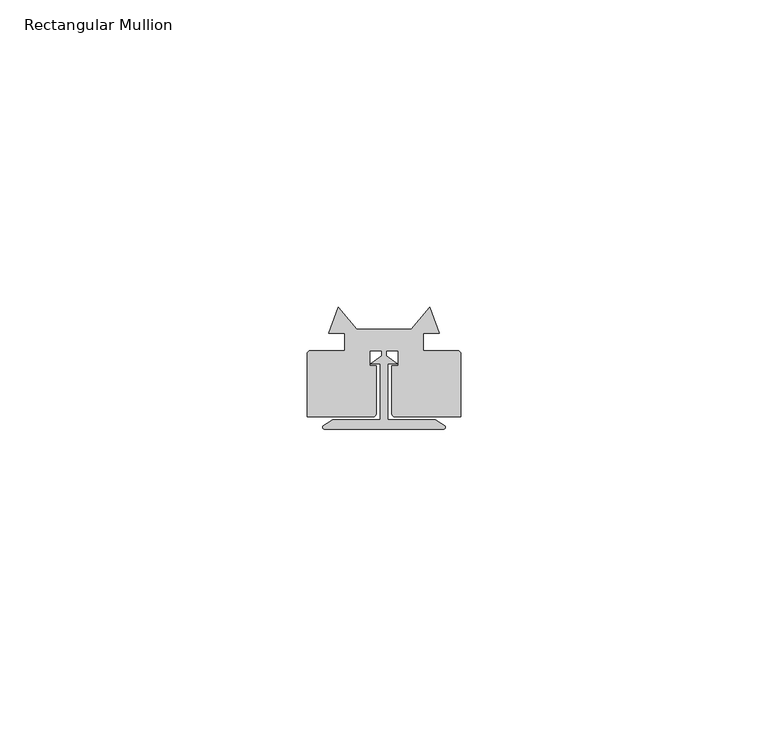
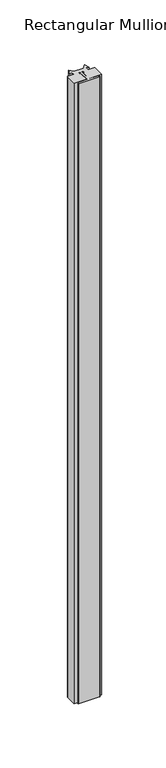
"""IFC4 building model written with IfcOpenShell, lengths in millimetres: member geometry, Rectangular Mullion : QO-V-01_01 Joint."""

from ifc_helpers import new_model, si_unit, point, frame, frame_2d, origin, place, context, project, spatial, polyline, circle_curve, trimmed, segment, composite_curve, outline, extrude, source, transform, mapped, element, save


def rectangular_mullion_b760c1d7(model_context):
    return source(origin(), model_context, "Body", "SweptSolid", [
        extrude(outline(composite_curve([segment(polyline([(0.6475876, 34.6160805), (0.6475876, 25.5027713), (8.3158634, 25.5027713), (9.8478388, 24.5783623)]), True, "CONTINUOUS"), segment(trimmed(circle_curve(frame_2d((9.6876801, 24.3129396)), 0.31), [point((9.8478388, 24.5783623))], [point((9.6876801, 24.0029396))], False, "CARTESIAN"), True, "CONTINUOUS"), segment(polyline([(9.6876801, 24.0029396), (-9.6923428, 24.0029396)]), True, "CONTINUOUS"), segment(trimmed(circle_curve(frame_2d((-9.6923428, 24.3129396)), 0.31), [point((-9.6923428, 24.0029396))], [point((-9.8525015, 24.5783623))], False, "CARTESIAN"), True, "CONTINUOUS"), segment(polyline([(-9.8525015, 24.5783623), (-8.3205261, 25.5027713), (-0.6524124, 25.5027713), (-0.6524124, 34.6160805), (-2.1674381, 34.6160805), (-0.3546092, 35.9759407), (-0.3546092, 36.7759407), (-2.3561345, 36.7759407), (-2.3561345, 34.317153), (-1.2879019, 34.317153), (-1.2879019, 26.5392087)]), True, "CONTINUOUS"), segment(trimmed(circle_curve(frame_2d((-1.7872786, 26.5150144)), 0.4999625), [point((-1.2879019, 26.5392087))], [point((-1.7872786, 26.0150519))], False, "CARTESIAN"), True, "CONTINUOUS"), segment(polyline([(-1.7872786, 26.0150519), (-12.5010847, 26.0150519), (-12.5010847, 36.190378)]), True, "CONTINUOUS"), segment(trimmed(circle_curve(frame_2d((-11.9010847, 36.190378)), 0.6), [point((-12.5010847, 36.190378))], [point((-11.9010847, 36.790378))], False, "CARTESIAN"), True, "CONTINUOUS"), segment(polyline([(-11.9010847, 36.790378), (-6.362561, 36.790378), (-6.362561, 39.6058207), (-8.961162, 39.6058207), (-7.4224126, 43.8493822), (-4.3991903, 40.3004498), (4.3943655, 40.3004498), (7.4175879, 43.8493822), (8.9563372, 39.6058207), (6.3577362, 39.6058207), (6.3577362, 36.790378), (11.8962599, 36.790378)]), True, "CONTINUOUS"), segment(trimmed(circle_curve(frame_2d((11.8962599, 36.190378)), 0.6), [point((11.8962599, 36.790378))], [point((12.4962599, 36.190378))], False, "CARTESIAN"), True, "CONTINUOUS"), segment(polyline([(12.4962599, 36.190378), (12.4962599, 26.0150519), (1.7824538, 26.0150519)]), True, "CONTINUOUS"), segment(trimmed(circle_curve(frame_2d((1.7824538, 26.5150144)), 0.4999625), [point((1.7824538, 26.0150519))], [point((1.2830771, 26.5392087))], False, "CARTESIAN"), True, "CONTINUOUS"), segment(polyline([(1.2830771, 26.5392087), (1.2830771, 34.317153), (2.3513097, 34.317153), (2.3513097, 36.7759407), (0.3497844, 36.7759407), (0.3497844, 35.9759407), (2.1626133, 34.6160805), (0.6475876, 34.6160805)]), True, "CONTINUOUS")], self_intersect=False)), frame((0.0, 0.0, -600.0), z_axis=(0.0, 0.0, 1.0), x_axis=(1.0, 0.0, 0.0)), (0.0, 0.0, 1.0), 600.0),
    ])


if __name__ == "__main__":
    model = new_model("IFC4")
    model_context = context("Model", 3, world=origin())
    ifc_project = project(units=[si_unit("LENGTHUNIT", "METRE", prefix="MILLI")], contexts=[model_context])
    site = spatial("IfcSite", under=ifc_project)
    building = spatial("IfcBuilding", under=site)
    placement = place(None, origin())
    rectangular_mullion_shape = rectangular_mullion_b760c1d7(model_context)
    element("IfcMember", 1, ObjectType="Rectangular Mullion : QO-V-01_01 Joint", at=placement, inside=building, context=model_context, shape_type="MappedRepresentation", body=[
        mapped(rectangular_mullion_shape, transform((0.0, 0.0, 0.0), x_axis=(1.0, 0.0, 0.0), y_axis=(0.0, 1.0, 0.0), z_axis=(0.0, 0.0, 1.0))),
    ])
    save(model, "model.ifc")
